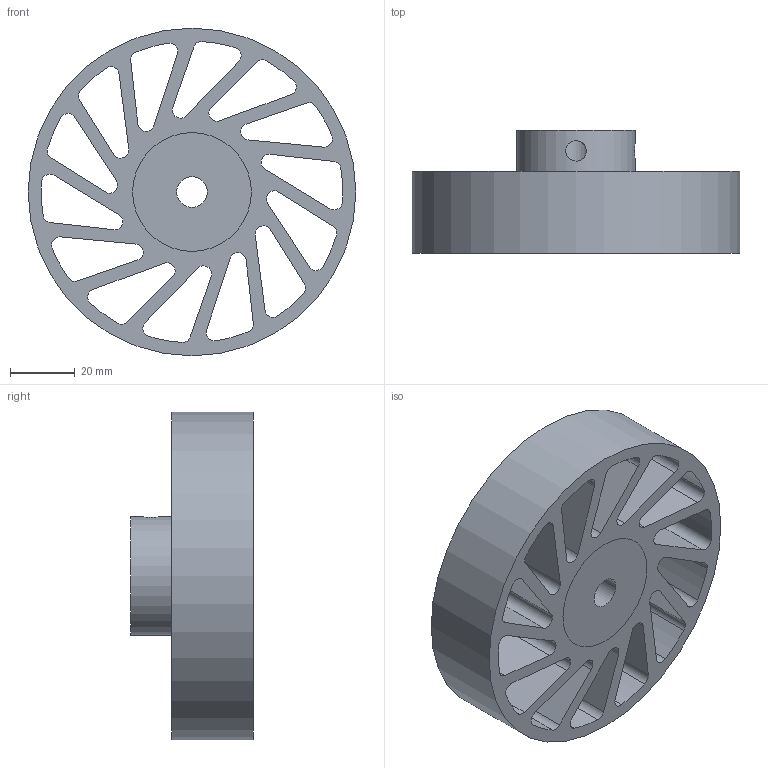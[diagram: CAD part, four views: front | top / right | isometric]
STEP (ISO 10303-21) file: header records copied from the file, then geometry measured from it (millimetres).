
FILE_DESCRIPTION(/* description */ (''),/* implementation_level */ '2;1');
FILE_NAME(/* name */ 'NCW-340-XXX-YYY.stp',/* time_stamp */ '2023-02-02T15:01:51-06:00',/* author */ ('AG'),/* organization */ ('Meridian Laboratory'),/* preprocessor_version */ 'ST-DEVELOPER v18.1',/* originating_system */ 'Autodesk Inventor 2022',/* authorisation */ '');
FILE_SCHEMA (('AUTOMOTIVE_DESIGN { 1 0 10303 214 3 1 1 }'));
Length unit declared in the file: inch
Products named in the file (1): NCW-340
Bounding box: 101.6 x 38.1 x 101.6 mm (x, y, z)
Volume: 125397.1 mm3; surface area: 50577.3 mm2
Topology: 2 solids, 2 shells, 94 faces, 276 edges, 186 vertices
Faces by surface type: cylinder 62, plane 32
Full cylindrical faces by diameter (mm): 6.35 x2, 9.538 x1, 36.83 x2, 101.6 x1
Entity records: 3530 total; most frequent: CARTESIAN_POINT 697, DIRECTION 576, ORIENTED_EDGE 552, EDGE_CURVE 276, AXIS2_PLACEMENT_3D 215, VERTEX_POINT 186, LINE 146, VECTOR 146
